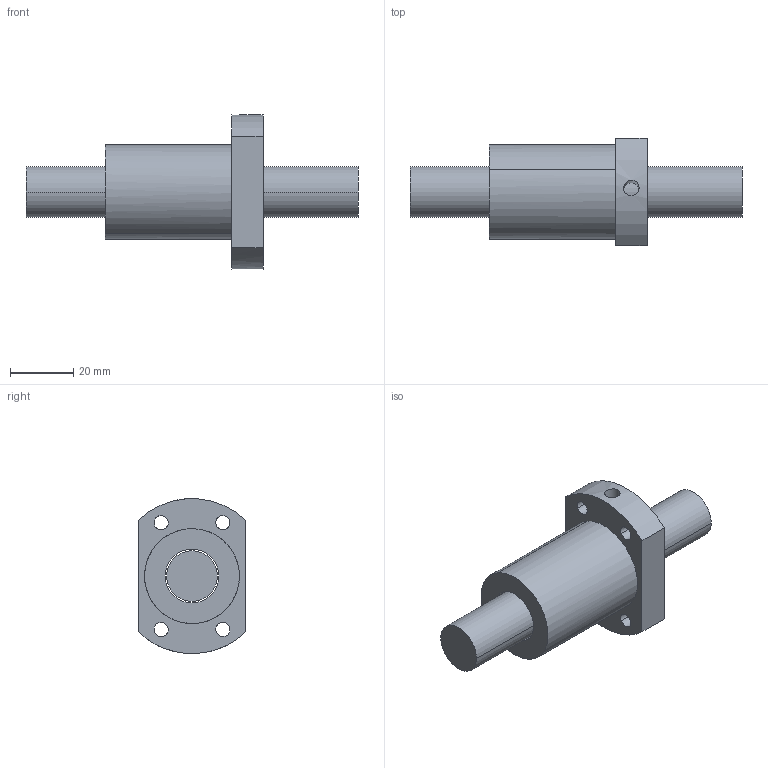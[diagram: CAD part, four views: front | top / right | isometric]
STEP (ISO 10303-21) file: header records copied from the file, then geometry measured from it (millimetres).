
FILE_DESCRIPTION(('CATIA V5 STEP Exchange'),'2;1');
FILE_NAME('C:\Users\aa\Documents\이댈\볼스크류\SFDR\완성품\SFD1605D.stp','2019-07-19T09:12:22+00:00',('none'),('none'),'CATIA Version 5 Release 20 SP 7 (IN-10)','CATIA V5 STEP AP203','none');
FILE_SCHEMA(('CONFIG_CONTROL_DESIGN'));
Length unit declared in the file: millimetre
Products named in the file (1): SFD1605D
Bounding box: 105 x 34 x 48.95 mm (x, y, z)
Volume: 51681.8 mm3; surface area: 17011.4 mm2
Topology: 2 solids, 2 shells, 37 faces, 84 edges, 56 vertices
Faces by surface type: cylinder 26, plane 11
Entity records: 1271 total; most frequent: CARTESIAN_POINT 413, ORIENTED_EDGE 168, DIRECTION 135, EDGE_CURVE 84, AXIS2_PLACEMENT_3D 70, VERTEX_POINT 56, EDGE_LOOP 54, ADVANCED_FACE 37
